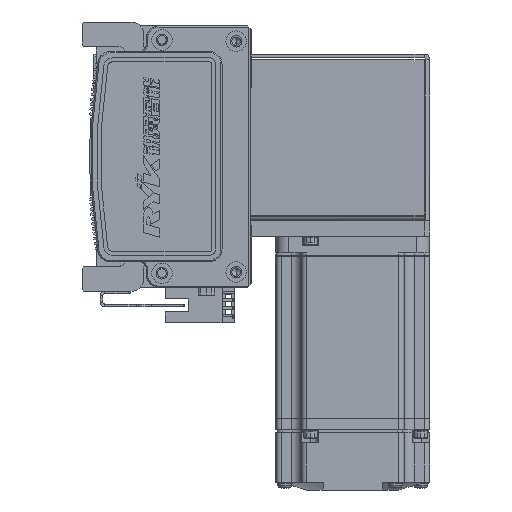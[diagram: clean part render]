
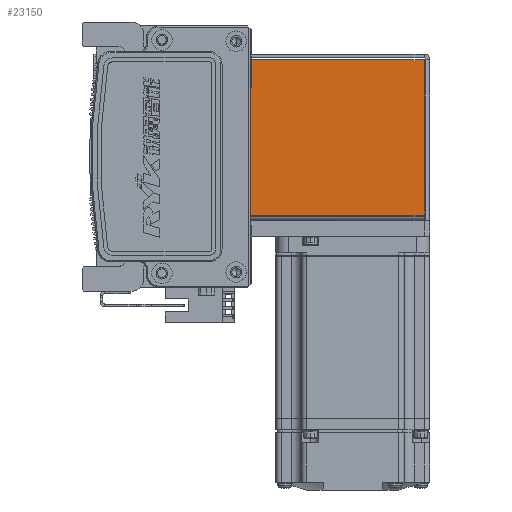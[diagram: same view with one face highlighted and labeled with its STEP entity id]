
A CAD part, left-side view. The second image highlights one B-rep face of the part: STEP entity #23150.
In plain terms, the highlighted planar face has unit normal (-1, 0, 0) as drawn and (0, 0, -1) by its records, which use the part's own axes.
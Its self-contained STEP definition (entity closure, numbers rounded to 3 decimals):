
#2286 = DIRECTION ( 'NONE',  ( 1., 0., 0. ) ) ;
#2861 = VECTOR ( 'NONE', #44579, 1000. ) ;
#5200 = CARTESIAN_POINT ( 'NONE',  ( 30.263, 0.737, -35. ) ) ;
#5529 = DIRECTION ( 'NONE',  ( 0., 0., 1. ) ) ;
#6572 = FACE_OUTER_BOUND ( 'NONE', #23092, .T. ) ;
#6960 = VERTEX_POINT ( 'NONE', #62509 ) ;
#7971 = VECTOR ( 'NONE', #31424, 1000. ) ;
#10124 = AXIS2_PLACEMENT_3D ( 'NONE', #31557, #5529, #32253 ) ;
#11513 = LINE ( 'NONE', #65528, #13182 ) ;
#13182 = VECTOR ( 'NONE', #2286, 1000. ) ;
#17277 = CARTESIAN_POINT ( 'NONE',  ( 30.263, 72.5, -35. ) ) ;
#17496 = VERTEX_POINT ( 'NONE', #5200 ) ;
#23092 = EDGE_LOOP ( 'NONE', ( #64239, #50267, #66456, #25006 ) ) ;
#23150 = ADVANCED_FACE ( 'NONE', ( #6572 ), #47656, .F. ) ;
#23265 = EDGE_CURVE ( 'NONE', #6960, #17496, #11513, .T. ) ;
#24390 = VECTOR ( 'NONE', #44798, 1000. ) ;
#25006 = ORIENTED_EDGE ( 'NONE', *, *, #62654, .T. ) ;
#31424 = DIRECTION ( 'NONE',  ( 0., 1., 0. ) ) ;
#31557 = CARTESIAN_POINT ( 'NONE',  ( 0., 0., -35. ) ) ;
#32253 = DIRECTION ( 'NONE',  ( 0., -1., 0. ) ) ;
#37562 = CARTESIAN_POINT ( 'NONE',  ( 30.263, 72.5, -35. ) ) ;
#41406 = VERTEX_POINT ( 'NONE', #52060 ) ;
#42331 = VERTEX_POINT ( 'NONE', #17277 ) ;
#42792 = LINE ( 'NONE', #60184, #2861 ) ;
#44579 = DIRECTION ( 'NONE',  ( 1., 0., 0. ) ) ;
#44798 = DIRECTION ( 'NONE',  ( 0., -1., 0. ) ) ;
#47656 = PLANE ( 'NONE',  #10124 ) ;
#50267 = ORIENTED_EDGE ( 'NONE', *, *, #23265, .F. ) ;
#52060 = CARTESIAN_POINT ( 'NONE',  ( -30.293, 72.5, -35. ) ) ;
#52694 = LINE ( 'NONE', #37562, #24390 ) ;
#60184 = CARTESIAN_POINT ( 'NONE',  ( 0., 72.5, -35. ) ) ;
#61920 = EDGE_CURVE ( 'NONE', #6960, #41406, #64546, .T. ) ;
#62509 = CARTESIAN_POINT ( 'NONE',  ( -30.293, 0.737, -35. ) ) ;
#62654 = EDGE_CURVE ( 'NONE', #41406, #42331, #42792, .T. ) ;
#64239 = ORIENTED_EDGE ( 'NONE', *, *, #68686, .T. ) ;
#64546 = LINE ( 'NONE', #68900, #7971 ) ;
#65528 = CARTESIAN_POINT ( 'NONE',  ( 32.5, 0.737, -35. ) ) ;
#66456 = ORIENTED_EDGE ( 'NONE', *, *, #61920, .T. ) ;
#68686 = EDGE_CURVE ( 'NONE', #42331, #17496, #52694, .T. ) ;
#68900 = CARTESIAN_POINT ( 'NONE',  ( -30.293, 0., -35. ) ) ;
